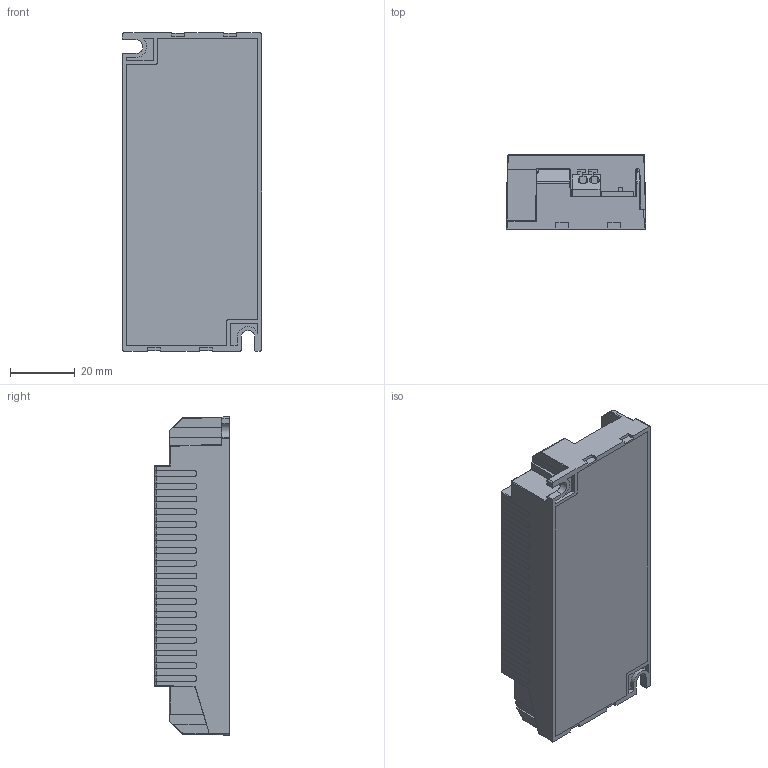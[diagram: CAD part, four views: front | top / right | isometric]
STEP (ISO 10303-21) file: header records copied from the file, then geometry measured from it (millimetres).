
FILE_DESCRIPTION(('Creo Elements/Direct Modeling STEP Export'),'2;1');
FILE_NAME('K107.1 DALI.stp','2025-12-16T11:35:00',(''),(''),'Creo Elements/Direct Modeling STEP processor for AP214 (Solid Model)','Creo Elements/Direct Modeling 20.7 06-Apr-2024 (C) Parametric Technology GmbH','');
FILE_SCHEMA(('AUTOMOTIVE_DESIGN { 1 0 10303 214 1 1 1 1 }'));
Length unit declared in the file: millimetre
Products named in the file (4): casing top; PCB; casing bottom; K107.1 DALI
Assembly tree (3 placements, depth 2):
  K107.1 DALI
    casing bottom
    PCB
    casing top
Bounding box: 43 x 23 x 98 mm (x, y, z)
Volume: 17990.2 mm3; surface area: 39908.7 mm2
Topology: 2 solids, 9 shells, 3003 faces, 8480 edges, 5627 vertices
Faces by surface type: plane 2618, cylinder 307, extrusion 54, torus 20, bspline 2, sphere 2
Entity records: 100920 total; most frequent: CARTESIAN_POINT 19863, ORIENTED_EDGE 16940, DIRECTION 14316, EDGE_CURVE 8478, VECTOR 7512, LINE 7458, VERTEX_POINT 5627, AXIS2_PLACEMENT_3D 3402
